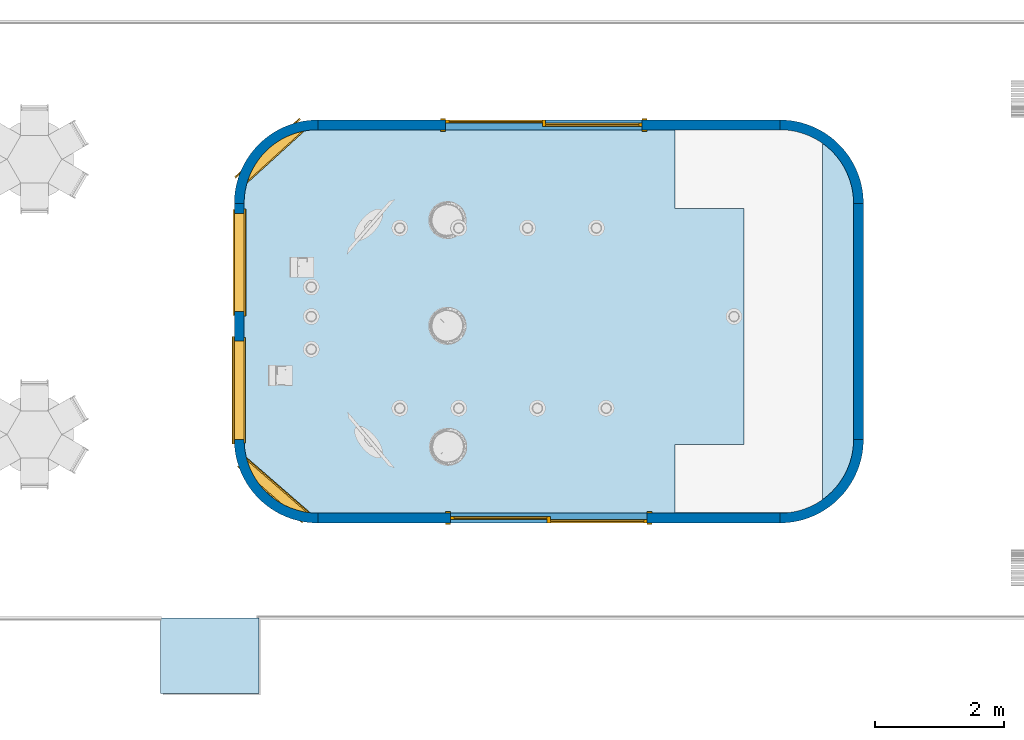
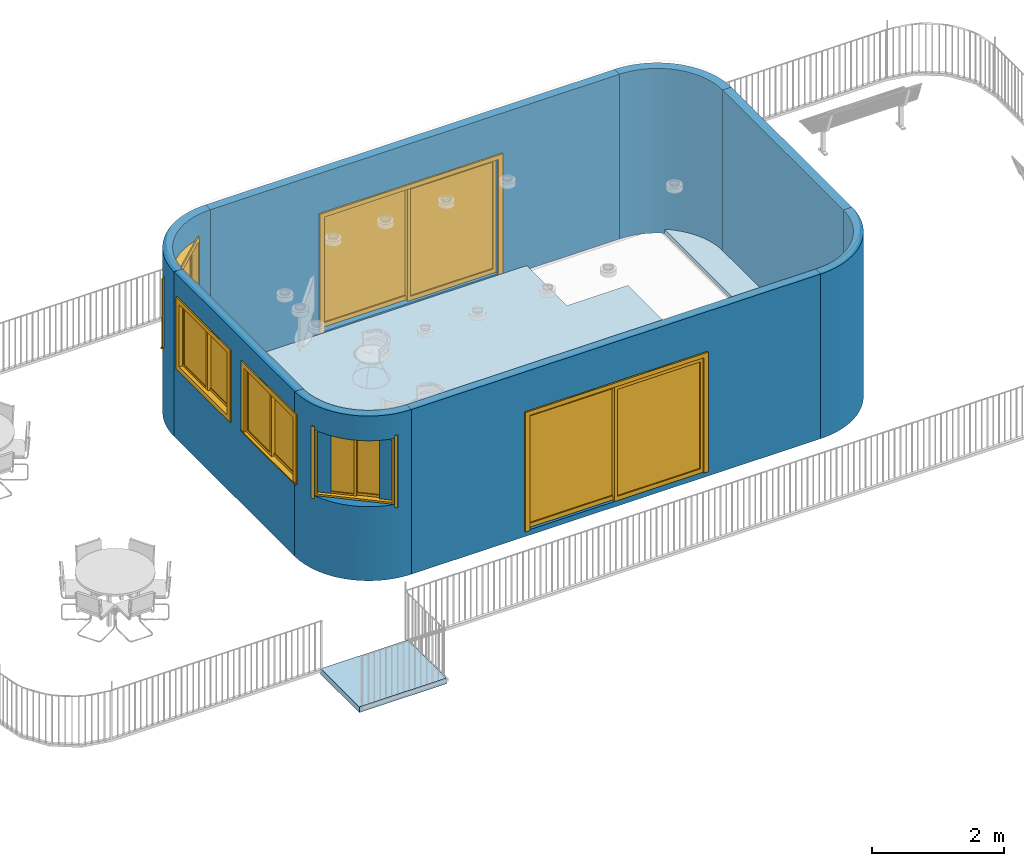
# One storey, part 1 of 8: 8 walls, 4 windows, 2 doors, 2 slabs, 7 openings.
"""IFC2X3 building model written with IfcOpenShell, lengths in feet."""

from ifc_helpers import new_model, entity, si_unit, converted_unit, derived_unit, direction, frame, frame_2d, origin, origin_2d_with_axis, place, context, subcontext, project, spatial, polyline, circle_curve, parameter, trimmed, segment, composite_curve, rectangle, outline, extrude, source, transform, mapped, material, material_list, layer, layer_set, layer_usage, type_object, type_shapes, element, fill, save


model = new_model("IFC2X3")

# Units and contexts
model_context = context("Model", 3, precision=0.0001, world=origin(), true_north=direction((6.12303176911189e-17, 1.0)))
body_context = subcontext(model_context, "Body", "Model", "MODEL_VIEW")
ifc_project = project(units=[converted_unit("LENGTHUNIT", "FOOT", entity("IfcRatioMeasure", 0.3048), si_unit("LENGTHUNIT", "METRE"), dimensions=[1, 0, 0, 0, 0, 0, 0]), converted_unit("AREAUNIT", "SQUARE FOOT", entity("IfcRatioMeasure", 0.09290304), si_unit("AREAUNIT", "SQUARE_METRE"), dimensions=[2, 0, 0, 0, 0, 0, 0]), converted_unit("VOLUMEUNIT", "CUBIC FOOT", entity("IfcRatioMeasure", 0.028316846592), si_unit("VOLUMEUNIT", "CUBIC_METRE"), dimensions=[3, 0, 0, 0, 0, 0, 0]), converted_unit("PLANEANGLEUNIT", "DEGREE", entity("IfcRatioMeasure", 0.0174532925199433), si_unit("PLANEANGLEUNIT", "RADIAN"), dimensions=[0, 0, 0, 0, 0, 0, 0]), si_unit("MASSUNIT", "GRAM", prefix="KILO"), derived_unit("MASSDENSITYUNIT", [(si_unit("MASSUNIT", "GRAM", prefix="KILO"), 1), (si_unit("LENGTHUNIT", "METRE"), -3)]), si_unit("TIMEUNIT", "SECOND"), si_unit("FREQUENCYUNIT", "HERTZ"), si_unit("THERMODYNAMICTEMPERATUREUNIT", "DEGREE_CELSIUS"), derived_unit("THERMALTRANSMITTANCEUNIT", [(si_unit("MASSUNIT", "GRAM", prefix="KILO"), 1), (si_unit("THERMODYNAMICTEMPERATUREUNIT", "KELVIN"), -1), (si_unit("TIMEUNIT", "SECOND"), -3)]), derived_unit("VOLUMETRICFLOWRATEUNIT", [(si_unit("LENGTHUNIT", "METRE"), 3), (si_unit("TIMEUNIT", "SECOND"), -1)]), si_unit("ELECTRICCURRENTUNIT", "AMPERE"), si_unit("ELECTRICVOLTAGEUNIT", "VOLT"), si_unit("POWERUNIT", "WATT"), si_unit("FORCEUNIT", "NEWTON"), si_unit("ILLUMINANCEUNIT", "LUX"), si_unit("LUMINOUSFLUXUNIT", "LUMEN"), si_unit("LUMINOUSINTENSITYUNIT", "CANDELA"), derived_unit("USERDEFINED", [(si_unit("MASSUNIT", "GRAM", prefix="KILO"), -1), (si_unit("LENGTHUNIT", "METRE"), -2), (si_unit("TIMEUNIT", "SECOND"), 3), (si_unit("LUMINOUSFLUXUNIT", "LUMEN"), 1)]), derived_unit("LINEARVELOCITYUNIT", [(si_unit("LENGTHUNIT", "METRE"), 1), (si_unit("TIMEUNIT", "SECOND"), -1)]), si_unit("PRESSUREUNIT", "PASCAL"), derived_unit("USERDEFINED", [(si_unit("LENGTHUNIT", "METRE"), -2), (si_unit("MASSUNIT", "GRAM", prefix="KILO"), 1), (si_unit("TIMEUNIT", "SECOND"), -2)])], contexts=[model_context])

# Site, building, storey
site_placement = place(None, origin())
site = spatial("IfcSite", under=ifc_project, at=site_placement, Name="表面", CompositionType="ELEMENT")
building_placement = place(site_placement, origin())
building = spatial("IfcBuilding", under=site, at=building_placement, CompositionType="ELEMENT")
storey_placement = place(building_placement, frame((0.0, 0.0, 20.0)))
storey = spatial("IfcBuildingStorey", under=building, at=storey_placement, Name="Sun Deck", CompositionType="ELEMENT", Elevation=19.9999999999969)

# Slab
ifc_material_1 = material(Name="Metal - Deck")
ifc_layer_1 = layer(ifc_material_1, 0.333333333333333)
ifc_material_2 = material(Name="Carpet (2)")
ifc_layer_2 = layer(ifc_material_2, 0.0104166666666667)
ifc_layer_set_1 = layer_set([ifc_layer_1, ifc_layer_2], Name="楼板:LW Concrete on Metal Deck")
ifc_layer_usage_1 = layer_usage(ifc_layer_set_1, "AXIS3", "POSITIVE", 0.0)
slab_1_placement = place(storey_placement, origin())
element("IfcSlab", 1, at=slab_1_placement, inside=storey, material=ifc_layer_usage_1, Name="楼板:LW Concrete on Metal Deck", ObjectType="楼板:LW Concrete on Metal Deck", PredefinedType="FLOOR", context=body_context, shape_type="SweptSolid", body=[
    extrude(rectangle(XDim=3.83333333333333, YDim=5.0, at=frame_2d((-1.77635683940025e-15, -8.88178419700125e-16), x_axis=(1.0, 0.0))), frame((-15.4515797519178, -15.3176063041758, 0.0), z_axis=(0.0, 0.0, -1.0), x_axis=(0.0, 1.0, 0.0)), (0.0, 0.0, 1.0), 0.34375),
])

# Slab, opening
ifc_layer_3 = layer(ifc_material_2, 0.25)
ifc_layer_set_2 = layer_set([ifc_layer_3], Name="楼板:3\" LW Concrete on 2\" Metal Deck")
ifc_layer_usage_2 = layer_usage(ifc_layer_set_2, "AXIS3", "POSITIVE", 0.0)
slab_2_placement = place(storey_placement, frame((-13.7015797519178, -8.06760630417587, 0.0)))
slab_2 = element("IfcSlab", 2, at=slab_2_placement, inside=storey, material=ifc_layer_usage_2, Name="楼板:3\" LW Concrete on 2\" Metal Deck", ObjectType="楼板:3\" LW Concrete on 2\" Metal Deck", PredefinedType="FLOOR", context=body_context, shape_type="SweptSolid", body=[
    extrude(outline(composite_curve([segment(trimmed(circle_curve(frame_2d((-11.75, 6.0), x_axis=(-1.0, 0.0)), 3.75), [parameter(270.0)], [parameter(1.01777749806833e-13)], True, "PARAMETER"), True, "CONTINUOUS"), segment(polyline([(-15.5, 6.0), (-15.5, -6.0)]), True, "CONTINUOUS"), segment(trimmed(circle_curve(frame_2d((-11.75, -6.0), x_axis=(-1.0, 0.0)), 3.75), [parameter(5.08888749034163e-14)], [parameter(90.0000000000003)], True, "PARAMETER"), True, "CONTINUOUS"), segment(polyline([(-11.75, -9.75000000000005), (11.75, -9.74999999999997)]), True, "CONTINUOUS"), segment(trimmed(circle_curve(frame_2d((11.75, -6.0), x_axis=(-1.0, 0.0)), 3.75), [parameter(90.0000000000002)], [parameter(180.0)], True, "PARAMETER"), True, "CONTINUOUS"), segment(polyline([(15.5, -6.0), (15.5, 6.0)]), True, "CONTINUOUS"), segment(trimmed(circle_curve(frame_2d((11.75, 6.0), x_axis=(-1.0, 0.0)), 3.75), [parameter(180.0)], [parameter(270.0)], True, "PARAMETER"), True, "CONTINUOUS"), segment(polyline([(11.75, 9.75000000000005), (-11.75, 9.75000000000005)]), True, "CONTINUOUS")], self_intersect=False)), frame((15.5, 9.75000000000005, 0.25), z_axis=(0.0, 0.0, -1.0), x_axis=(-1.0, 0.0, 0.0)), (0.0, 0.0, 1.0), 0.25),
])
opening_1_placement = place(storey_placement, frame((-13.7015797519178, -8.06760630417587, 0.0)))
element("IfcOpeningElement", 3, at=opening_1_placement, cuts=slab_2, ObjectType="Opening", context=body_context, shape_type="SweptSolid", body=[
    extrude(outline(polyline([(-13.9166666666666, 9.74999999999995), (-13.9166666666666, -9.72760980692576), (-6.41666666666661, -9.72760980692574), (-6.41666666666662, -6.25000000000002), (-9.91666666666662, -6.25000000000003), (-9.91666666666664, 5.74999999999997), (-6.41666666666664, 5.74999999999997), (-6.41666666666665, 9.74999999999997), (-13.9166666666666, 9.74999999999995)])), frame((15.5, 9.75000000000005, 0.25), z_axis=(0.0, 0.0, -1.0), x_axis=(-1.0, 0.0, 0.0)), (0.0, 0.0, 1.0), 0.25),
])

# Wall, openings, windows
ifc_material_3 = material(Name="Paint")
ifc_layer_4 = layer(ifc_material_3, 0.333333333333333)
ifc_material_4 = material(Name="Paints and Coatings")
ifc_layer_5 = layer(ifc_material_4, 0.166666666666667)
ifc_layer_set_3 = layer_set([ifc_layer_4, ifc_layer_5], Name="基本墙:Generic - 4\" Brick")
ifc_layer_usage_3 = layer_usage(ifc_layer_set_3, "AXIS2", "NEGATIVE", 0.25)
wall_type = type_object("IfcWallType", Name="基本墙:Generic - 4\" Brick", PredefinedType="STANDARD", material=ifc_layer_set_3)
wall_1_placement = place(storey_placement, frame((-13.9515797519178, -4.31760630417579, 0.0), z_axis=(0.0, 0.0, 1.0), x_axis=(0.0, 1.0, 0.0)))
wall_1 = element("IfcWallStandardCase", 4, at=wall_1_placement, inside=storey, type_object=wall_type, material=ifc_layer_usage_3, Name="基本墙:Generic - 4\" Brick", ObjectType="基本墙:Generic - 4\" Brick:257", context=body_context, shape_type="SweptSolid", body=[
    extrude(rectangle(XDim=12.0, YDim=0.5, at=frame_2d((6.00000000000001, 0.0), x_axis=(-1.0, 0.0))), origin(), (0.0, 0.0, 1.0), 9.99999999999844),
])
opening_2_placement = place(wall_1_placement, frame((0.0, -0.25, 4.49999999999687)))
opening_2 = element("IfcOpeningElement", 5, at=opening_2_placement, cuts=wall_1, Name="Slider with Trim:60\" x 48\":1", ObjectType="Opening", context=body_context, shape_type="SweptSolid", body=[
    extrude(rectangle(XDim=3.99999999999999, YDim=5.0, at=frame_2d((2.0, 2.5), x_axis=(-1.0, 0.0))), frame((0.0, 0.0, 0.0), z_axis=(0.0, 1.0, 0.0), x_axis=(0.0, 0.0, 1.0)), (0.0, 0.0, 1.0), 0.5),
])
opening_3_placement = place(wall_1_placement, frame((11.5, 0.249999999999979, 4.49999999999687)))
opening_3 = element("IfcOpeningElement", 6, at=opening_3_placement, cuts=wall_1, Name="Slider with Trim:60\" x 48\":1", ObjectType="Opening", context=body_context, shape_type="SweptSolid", body=[
    extrude(rectangle(XDim=3.99999999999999, YDim=5.0, at=frame_2d((2.0, 2.5), x_axis=(-1.0, 0.0))), frame((0.0, 0.0, 0.0), z_axis=(0.0, -1.0, 0.0), x_axis=(0.0, 0.0, 1.0)), (0.0, 0.0, 1.0), 0.5),
])
ifc_material_5 = material(Name="Glass")
ifc_material_6 = material(Name="Sash")
ifc_material_7 = material(Name="Trim")
ifc_material_list_1 = material_list([ifc_material_5, ifc_material_6, ifc_material_7])
ifc_material_list_2 = material_list([ifc_material_5, ifc_material_6, ifc_material_7])
window_style_1 = type_object("IfcWindowStyle", Name="60\" x 48\"", ConstructionType="NOTDEFINED", OperationType="NOTDEFINED", ParameterTakesPrecedence=False, Sizeable=False, material=ifc_material_list_2)
shared_shape_1 = source(origin(), body_context, "Body", "SweptSolid", [
    extrude(rectangle(XDim=0.0416666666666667, YDim=2.21875000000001, at=frame_2d((0.0, -2.22044604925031e-16), x_axis=(1.0, 0.0))), frame((1.31770833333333, 0.21875, 0.208333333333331), z_axis=(0.0, 0.0, 1.0), x_axis=(0.0, -1.0, 0.0)), (0.0, 0.0, 1.0), 3.58333333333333),
    extrude(outline(polyline([(-1.25520833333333, -1.9375), (1.25520833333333, -1.9375), (1.25520833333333, 1.9375), (-1.25520833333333, 1.9375), (-1.25520833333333, -1.9375)]), holes=[polyline([(-1.109375, -1.79166666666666), (-1.109375, 1.79166666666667), (1.109375, 1.79166666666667), (1.109375, -1.79166666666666), (-1.109375, -1.79166666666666)])]), frame((1.31770833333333, 0.145833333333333, 2.0), z_axis=(0.0, 1.0, 0.0), x_axis=(1.0, 0.0, 0.0)), (0.0, 0.0, 1.0), 0.145833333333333),
    extrude(rectangle(XDim=0.104166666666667, YDim=5.45833333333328, at=frame_2d((-2.77555756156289e-17, 0.0), x_axis=(1.0, 0.0))), frame((2.50000000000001, 0.552083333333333, 0.0), z_axis=(0.0, 0.0, 1.0), x_axis=(0.0, -1.0, 0.0)), (0.0, 0.0, 1.0), 0.0624999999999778),
    extrude(outline(polyline([(-1.86458333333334, 2.4375), (2.01041666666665, 2.4375), (2.01041666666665, 2.72916666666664), (-2.15624999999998, 2.72916666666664), (-2.15624999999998, -2.72916666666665), (2.01041666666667, -2.72916666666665), (2.01041666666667, -2.43749999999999), (-1.86458333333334, -2.43749999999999), (-1.86458333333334, 2.4375)])), frame((2.5, 0.5, 2.07291666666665), z_axis=(0.0, 1.0, 0.0), x_axis=(0.0, 0.0, -1.0)), (0.0, 0.0, 1.0), 0.0625),
    extrude(outline(polyline([(-2.18749999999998, -2.68749999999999), (2.18749999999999, -2.68749999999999), (2.18749999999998, 2.68749999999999), (-2.18749999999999, 2.68749999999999), (-2.18749999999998, -2.68749999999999)]), holes=[polyline([(-1.89583333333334, -2.39583333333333), (-1.89583333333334, 2.39583333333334), (1.89583333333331, 2.39583333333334), (1.89583333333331, -2.39583333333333), (-1.89583333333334, -2.39583333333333)])]), frame((2.5, -0.0625, 2.0), z_axis=(0.0, 1.0, 0.0), x_axis=(0.0, 0.0, -1.0)), (0.0, 0.0, 1.0), 0.0625),
    extrude(rectangle(XDim=0.0416666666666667, YDim=2.21874999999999, at=frame_2d((1.38777878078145e-17, 0.0), x_axis=(1.0, 0.0))), frame((3.68229166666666, 0.364583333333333, 0.208333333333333), z_axis=(0.0, 0.0, 1.0), x_axis=(0.0, 1.0, 0.0)), (0.0, 0.0, 1.0), 3.58333333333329),
    extrude(outline(polyline([(-1.25520833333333, -1.93749999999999), (1.25520833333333, -1.93749999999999), (1.25520833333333, 1.93749999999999), (-1.25520833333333, 1.93749999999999), (-1.25520833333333, -1.93749999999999)]), holes=[polyline([(-1.10937499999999, -1.79166666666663), (-1.10937499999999, 1.79166666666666), (1.10937499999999, 1.79166666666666), (1.10937499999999, -1.79166666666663), (-1.10937499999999, -1.79166666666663)])]), frame((3.68229166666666, 0.291666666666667, 2.0), z_axis=(0.0, 1.0, 0.0), x_axis=(1.0, 0.0, 0.0)), (0.0, 0.0, 1.0), 0.145833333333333),
    extrude(outline(polyline([(-2.5, -2.0), (2.5, -2.0), (2.5, 2.0), (-2.5, 2.0), (-2.5, -2.0)]), holes=[polyline([(-2.39583333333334, -1.89583333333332), (-2.39583333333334, 1.89583333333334), (2.39583333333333, 1.89583333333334), (2.39583333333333, -1.89583333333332), (-2.39583333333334, -1.89583333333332)])]), frame((2.5, 0.0, 2.0), z_axis=(0.0, 1.0, 0.0), x_axis=(1.0, 0.0, 0.0)), (0.0, 0.0, 1.0), 0.145833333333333),
    extrude(outline(polyline([(-2.0, -2.5), (2.0, -2.5), (2.0, 2.5), (-2.0, 2.5), (-2.0, -2.5)]), holes=[polyline([(-1.9375, -2.43749999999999), (-1.9375, 2.4375), (1.9375, 2.4375), (1.9375, -2.43749999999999), (-1.9375, -2.43749999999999)])]), frame((2.5, 0.145833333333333, 2.0), z_axis=(0.0, 1.0, 0.0), x_axis=(0.0, 0.0, -1.0)), (0.0, 0.0, 1.0), 0.354166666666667),
])
type_shapes(window_style_1, [shared_shape_1])
window_1_placement = place(opening_2_placement, origin())
window_1 = element("IfcWindow", 7, at=window_1_placement, inside=storey, type_object=window_style_1, material=ifc_material_list_1, Name="Slider with Trim:60\" x 48\"", ObjectType="60\" x 48\"", OverallHeight=4.0, OverallWidth=5.0, context=body_context, shape_type="MappedRepresentation", body=[
    mapped(shared_shape_1, transform((0.0, 0.0, 0.0), scale=1.0)),
])
fill(opening_2, window_1)
ifc_material_list_3 = material_list([ifc_material_5, ifc_material_6, ifc_material_7])
window_2_placement = place(opening_3_placement, frame((0.0, 0.0, 0.0), z_axis=(0.0, 0.0, 1.0), x_axis=(-1.0, 0.0, 0.0)))
window_2 = element("IfcWindow", 8, at=window_2_placement, inside=storey, type_object=window_style_1, material=ifc_material_list_3, Name="Slider with Trim:60\" x 48\"", ObjectType="60\" x 48\"", OverallHeight=4.0, OverallWidth=5.0, context=body_context, shape_type="MappedRepresentation", body=[
    mapped(shared_shape_1, transform((0.0, 0.0, 0.0), scale=1.0)),
])
fill(opening_3, window_2)

# Wall, opening, door
ifc_layer_usage_4 = layer_usage(ifc_layer_set_3, "AXIS2", "NEGATIVE", 0.25)
wall_2_placement = place(storey_placement, frame((-9.95157975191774, 11.6823936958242, 0.0)))
wall_2 = element("IfcWallStandardCase", 9, at=wall_2_placement, inside=storey, type_object=wall_type, material=ifc_layer_usage_4, Name="基本墙:Generic - 4\" Brick", ObjectType="基本墙:Generic - 4\" Brick:257", context=body_context, shape_type="SweptSolid", body=[
    extrude(rectangle(XDim=23.5, YDim=0.5, at=frame_2d((11.75, 0.0), x_axis=(-1.0, 0.0))), origin(), (0.0, 0.0, 1.0), 9.99999999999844),
])
opening_4_placement = place(wall_2_placement, frame((6.5, -0.249999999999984, 0.333333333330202)))
opening_4 = element("IfcOpeningElement", 10, at=opening_4_placement, cuts=wall_2, Name="Sliding-2 panel:72\" x 84\":1", ObjectType="Opening", context=body_context, shape_type="SweptSolid", body=[
    extrude(rectangle(XDim=7.0, YDim=10.0, at=frame_2d((3.5, 5.0), x_axis=(-1.0, 0.0))), frame((0.0, 0.0, 0.0), z_axis=(0.0, 1.0, 0.0), x_axis=(0.0, 0.0, 1.0)), (0.0, 0.0, 1.0), 0.5),
])
ifc_material_8 = material(Name="Door - Panel")
ifc_material_9 = material(Name="Door - Frame")
ifc_material_list_4 = material_list([ifc_material_5, ifc_material_8, ifc_material_9])
ifc_material_list_5 = material_list([ifc_material_5, ifc_material_8, ifc_material_9])
door_style = type_object("IfcDoorStyle", Name="72\" x 84\"", ConstructionType="NOTDEFINED", OperationType="NOTDEFINED", ParameterTakesPrecedence=False, Sizeable=False, material=ifc_material_list_5)
shared_shape_2 = source(origin(), body_context, "Body", "SweptSolid", [
    extrude(rectangle(XDim=0.0208333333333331, YDim=4.74999999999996, at=frame_2d((5.55111512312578e-17, 0.0), x_axis=(1.0, 0.0))), frame((7.45833333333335, 0.250000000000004, 0.249999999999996), z_axis=(0.0, 0.0, 1.0), x_axis=(0.0, -1.0, 0.0)), (0.0, 0.0, 1.0), 6.5),
    extrude(outline(polyline([(-2.54166666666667, -3.5), (2.54166666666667, -3.5), (2.54166666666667, 3.5), (-2.54166666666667, 3.5), (-2.54166666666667, -3.5)]), holes=[polyline([(-2.375, -3.25), (-2.375, 3.25), (2.375, 3.25), (2.375, -3.25), (-2.375, -3.25)])]), frame((7.45833333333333, 0.166666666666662, 3.5), z_axis=(0.0, 1.0, 0.0), x_axis=(1.0, 0.0, 0.0)), (0.0, 0.0, 1.0), 0.166666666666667),
    extrude(rectangle(XDim=0.0208333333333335, YDim=4.75000000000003, at=frame_2d((0.0, -4.44089209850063e-16), x_axis=(1.0, 0.0))), frame((2.54166666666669, 0.416666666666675, 0.249999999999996), z_axis=(0.0, 0.0, 1.0), x_axis=(0.0, -1.0, 0.0)), (0.0, 0.0, 1.0), 6.5),
    extrude(outline(polyline([(-3.5, -2.54166666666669), (3.5, -2.54166666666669), (3.5, 2.54166666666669), (-3.5, 2.54166666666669), (-3.5, -2.54166666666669)]), holes=[polyline([(-3.25, -2.37500000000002), (-3.25, 2.37500000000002), (3.25, 2.37500000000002), (3.25, -2.37500000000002), (-3.25, -2.37500000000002)])]), frame((2.54166666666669, 0.333333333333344, 3.5), z_axis=(0.0, 1.0, 0.0), x_axis=(0.0, 0.0, -1.0)), (0.0, 0.0, 1.0), 0.166666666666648),
    extrude(outline(polyline([(-3.5625, -5.25), (3.6875, -5.25), (3.6875, 5.25), (-3.5625, 5.25), (-3.5625, 5.0), (3.4375, 5.0), (3.4375, -5.0), (-3.5625, -5.0), (-3.5625, -5.25)])), frame((5.0, -0.0833333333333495, 3.5625), z_axis=(0.0, 1.0, 0.0), x_axis=(0.0, 0.0, 1.0)), (0.0, 0.0, 1.0), 0.0833333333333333),
    extrude(outline(polyline([(-5.24999999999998, -3.56250000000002), (-5.0, -3.56250000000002), (-5.0, 3.43749999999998), (5.0, 3.43750000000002), (5.0, -3.56249999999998), (5.25000000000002, -3.56249999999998), (5.24999999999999, 3.68750000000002), (-5.25000000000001, 3.68749999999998), (-5.24999999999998, -3.56250000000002)])), frame((5.0, 0.499999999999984, 3.5625), z_axis=(0.0, 1.0, 0.0), x_axis=(-1.0, 0.0, 0.0)), (0.0, 0.0, 1.0), 0.0833333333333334),
])
type_shapes(door_style, [shared_shape_2])
door_1_placement = place(opening_4_placement, origin())
door_1 = element("IfcDoor", 11, at=door_1_placement, inside=storey, type_object=door_style, material=ifc_material_list_4, Name="Sliding-2 panel:72\" x 84\"", ObjectType="72\" x 84\"", OverallHeight=7.0, OverallWidth=10.0, context=body_context, shape_type="MappedRepresentation", body=[
    mapped(shared_shape_2, transform((0.0, 0.0, 0.0), scale=1.0)),
])
fill(opening_4, door_1)

# Wall
ifc_layer_usage_5 = layer_usage(ifc_layer_set_3, "AXIS2", "NEGATIVE", 0.25)
wall_3_placement = place(storey_placement, frame((17.5484202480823, 7.68239369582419, 0.0), z_axis=(0.0, 0.0, 1.0), x_axis=(0.0, -1.0, 0.0)))
element("IfcWallStandardCase", 12, at=wall_3_placement, inside=storey, type_object=wall_type, material=ifc_layer_usage_5, Name="基本墙:Generic - 4\" Brick", ObjectType="基本墙:Generic - 4\" Brick:257", context=body_context, shape_type="SweptSolid", body=[
    extrude(rectangle(XDim=12.0000000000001, YDim=0.5, at=frame_2d((6.00000000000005, 7.21644966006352e-16), x_axis=(-1.0, 0.0))), origin(), (0.0, 0.0, 1.0), 9.99999999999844),
])

# Wall, opening, door
ifc_layer_usage_6 = layer_usage(ifc_layer_set_3, "AXIS2", "NEGATIVE", 0.25)
wall_4_placement = place(storey_placement, frame((13.5484202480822, -8.31760630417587, 0.0), z_axis=(0.0, 0.0, 1.0), x_axis=(-1.0, 0.0, 0.0)))
wall_4 = element("IfcWallStandardCase", 13, at=wall_4_placement, inside=storey, type_object=wall_type, material=ifc_layer_usage_6, Name="基本墙:Generic - 4\" Brick", ObjectType="基本墙:Generic - 4\" Brick:257", context=body_context, shape_type="SweptSolid", body=[
    extrude(rectangle(XDim=23.5, YDim=0.5, at=frame_2d((11.75, -4.16333634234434e-16), x_axis=(-1.0, 0.0))), origin(), (0.0, 0.0, 1.0), 9.99999999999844),
])
opening_5_placement = place(wall_4_placement, frame((6.75, -0.250000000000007, 0.333333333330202)))
opening_5 = element("IfcOpeningElement", 14, at=opening_5_placement, cuts=wall_4, Name="Sliding-2 panel:72\" x 84\":1", ObjectType="Opening", context=body_context, shape_type="SweptSolid", body=[
    extrude(rectangle(XDim=7.0, YDim=10.0, at=frame_2d((3.5, 5.0), x_axis=(-1.0, 0.0))), frame((0.0, 0.0, 0.0), z_axis=(0.0, 1.0, 0.0), x_axis=(0.0, 0.0, 1.0)), (0.0, 0.0, 1.0), 0.5),
])
ifc_material_list_6 = material_list([ifc_material_5, ifc_material_8, ifc_material_9])
door_2_placement = place(opening_5_placement, origin())
door_2 = element("IfcDoor", 15, at=door_2_placement, inside=storey, type_object=door_style, material=ifc_material_list_6, Name="Sliding-2 panel:72\" x 84\"", ObjectType="72\" x 84\"", OverallHeight=7.0, OverallWidth=10.0, context=body_context, shape_type="MappedRepresentation", body=[
    mapped(shared_shape_2, transform((0.0, 0.0, 0.0), scale=1.0)),
])
fill(opening_5, door_2)

# Wall, opening, window
ifc_layer_usage_7 = layer_usage(ifc_layer_set_3, "AXIS2", "NEGATIVE", 0.25)
wall_5_placement = place(storey_placement, frame((-9.95157975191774, 11.6823936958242, 0.0)))
wall_5 = element("IfcWallStandardCase", 16, at=wall_5_placement, inside=storey, type_object=wall_type, material=ifc_layer_usage_7, Name="基本墙:Generic - 4\" Brick", ObjectType="基本墙:Generic - 4\" Brick:257", context=body_context, shape_type="SweptSolid", body=[
    extrude(outline(composite_curve([segment(trimmed(circle_curve(frame_2d((0.0, -4.0), x_axis=(1.0, 0.0)), 3.75), [parameter(90.0000000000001)], [parameter(180.0)], True, "PARAMETER"), False, "CONTINUOUS"), segment(polyline([(0.0, -0.25), (0.0, 0.25)]), True, "CONTINUOUS"), segment(trimmed(circle_curve(frame_2d((0.0, -4.0), x_axis=(1.0, 0.0)), 4.25), [parameter(90.0000000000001)], [parameter(180.0)], True, "PARAMETER"), True, "CONTINUOUS"), segment(polyline([(-4.25, -4.0), (-3.75, -4.0)]), True, "CONTINUOUS")], self_intersect=False)), origin(), (0.0, 0.0, 1.0), 9.99999999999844),
])
opening_6_placement = place(wall_5_placement, frame((-0.976389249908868, -5.89977990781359, 4.49999999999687)))
opening_6 = element("IfcOpeningElement", 17, at=opening_6_placement, cuts=wall_5, Name="Slider with Trim:48\" x 48\":1", ObjectType="Opening", context=body_context, shape_type="SweptSolid", body=[
    extrude(rectangle(XDim=3.99999999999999, YDim=3.99999999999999, at=frame_2d((2.0, 2.0), x_axis=(-1.0, 0.0))), frame((0.0, 0.0, 0.0), z_axis=(-0.672277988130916, 0.740298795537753, 0.0), x_axis=(0.0, 0.0, 1.0)), (0.0, 0.0, 1.0), 4.62701643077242),
])
ifc_material_list_7 = material_list([ifc_material_5, ifc_material_6, ifc_material_7])
ifc_material_list_8 = material_list([ifc_material_5, ifc_material_6, ifc_material_7])
window_style_2 = type_object("IfcWindowStyle", Name="48\" x 48\"", ConstructionType="NOTDEFINED", OperationType="NOTDEFINED", ParameterTakesPrecedence=False, Sizeable=False, material=ifc_material_list_8)
shared_shape_3 = source(origin(), body_context, "Body", "SweptSolid", [
    extrude(rectangle(XDim=0.0416666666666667, YDim=1.71875000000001, at=origin_2d_with_axis()), frame((1.06770833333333, 0.21875, 0.208333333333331), z_axis=(0.0, 0.0, 1.0), x_axis=(0.0, -1.0, 0.0)), (0.0, 0.0, 1.0), 3.58333333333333),
    extrude(outline(polyline([(-1.00520833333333, -1.9375), (1.00520833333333, -1.9375), (1.00520833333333, 1.9375), (-1.00520833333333, 1.9375), (-1.00520833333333, -1.9375)]), holes=[polyline([(-0.859374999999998, -1.79166666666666), (-0.859374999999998, 1.79166666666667), (0.859374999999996, 1.79166666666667), (0.859374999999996, -1.79166666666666), (-0.859374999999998, -1.79166666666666)])]), frame((1.06770833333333, 0.145833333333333, 2.0), z_axis=(0.0, 1.0, 0.0), x_axis=(1.0, 0.0, 0.0)), (0.0, 0.0, 1.0), 0.145833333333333),
    extrude(rectangle(XDim=0.104166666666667, YDim=4.45833333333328, at=frame_2d((-2.77555756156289e-17, 0.0), x_axis=(1.0, 0.0))), frame((2.0, 0.552083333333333, 0.0), z_axis=(0.0, 0.0, 1.0), x_axis=(0.0, -1.0, 0.0)), (0.0, 0.0, 1.0), 0.0624999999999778),
    extrude(outline(polyline([(-1.86458333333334, 1.9375), (2.01041666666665, 1.9375), (2.01041666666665, 2.22916666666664), (-2.15624999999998, 2.22916666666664), (-2.15624999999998, -2.22916666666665), (2.01041666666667, -2.22916666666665), (2.01041666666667, -1.93749999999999), (-1.86458333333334, -1.93749999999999), (-1.86458333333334, 1.9375)])), frame((2.0, 0.5, 2.07291666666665), z_axis=(0.0, 1.0, 0.0), x_axis=(0.0, 0.0, -1.0)), (0.0, 0.0, 1.0), 0.0625),
    extrude(outline(polyline([(-2.18749999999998, -2.18749999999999), (2.18749999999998, -2.18749999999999), (2.18749999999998, 2.18749999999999), (-2.18749999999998, 2.18749999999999), (-2.18749999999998, -2.18749999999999)]), holes=[polyline([(-1.89583333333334, -1.89583333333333), (-1.89583333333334, 1.89583333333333), (1.89583333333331, 1.89583333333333), (1.89583333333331, -1.89583333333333), (-1.89583333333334, -1.89583333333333)])]), frame((2.0, -0.0625, 2.0), z_axis=(0.0, 1.0, 0.0), x_axis=(0.0, 0.0, -1.0)), (0.0, 0.0, 1.0), 0.0625),
    extrude(rectangle(XDim=0.0416666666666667, YDim=1.71874999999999, at=frame_2d((1.38777878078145e-17, 0.0), x_axis=(1.0, 0.0))), frame((2.93229166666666, 0.364583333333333, 0.208333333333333), z_axis=(0.0, 0.0, 1.0), x_axis=(0.0, 1.0, 0.0)), (0.0, 0.0, 1.0), 3.58333333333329),
    extrude(outline(polyline([(-1.00520833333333, -1.93749999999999), (1.00520833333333, -1.93749999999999), (1.00520833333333, 1.93749999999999), (-1.00520833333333, 1.93749999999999), (-1.00520833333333, -1.93749999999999)]), holes=[polyline([(-0.859374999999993, -1.79166666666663), (-0.859374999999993, 1.79166666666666), (0.859374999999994, 1.79166666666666), (0.859374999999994, -1.79166666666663), (-0.859374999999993, -1.79166666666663)])]), frame((2.93229166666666, 0.291666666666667, 2.0), z_axis=(0.0, 1.0, 0.0), x_axis=(1.0, 0.0, 0.0)), (0.0, 0.0, 1.0), 0.145833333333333),
    extrude(outline(polyline([(-2.0, -2.0), (2.0, -2.0), (2.0, 2.0), (-2.0, 2.0), (-2.0, -2.0)]), holes=[polyline([(-1.89583333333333, -1.89583333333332), (-1.89583333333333, 1.89583333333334), (1.89583333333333, 1.89583333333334), (1.89583333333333, -1.89583333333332), (-1.89583333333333, -1.89583333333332)])]), frame((2.0, 0.0, 2.0), z_axis=(0.0, 1.0, 0.0), x_axis=(1.0, 0.0, 0.0)), (0.0, 0.0, 1.0), 0.145833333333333),
    extrude(outline(polyline([(-2.0, -2.0), (2.0, -2.0), (2.0, 2.0), (-2.0, 2.0), (-2.0, -2.0)]), holes=[polyline([(-1.9375, -1.93749999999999), (-1.9375, 1.9375), (1.9375, 1.9375), (1.9375, -1.93749999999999), (-1.9375, -1.93749999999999)])]), frame((2.0, 0.145833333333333, 2.0), z_axis=(0.0, 1.0, 0.0), x_axis=(0.0, 0.0, -1.0)), (0.0, 0.0, 1.0), 0.354166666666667),
])
type_shapes(window_style_2, [shared_shape_3])
window_3_placement = place(opening_6_placement, frame((-2.68911180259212, 2.96119501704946, 0.0), z_axis=(0.0, 0.0, 1.0), x_axis=(0.740298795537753, 0.672277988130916, 0.0)))
window_3 = element("IfcWindow", 18, at=window_3_placement, inside=storey, type_object=window_style_2, material=ifc_material_list_7, Name="Slider with Trim:48\" x 48\"", ObjectType="48\" x 48\"", OverallHeight=4.0, OverallWidth=3.99999999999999, context=body_context, shape_type="MappedRepresentation", body=[
    mapped(shared_shape_3, transform((0.0, 0.0, 0.0), scale=1.0)),
])
fill(opening_6, window_3)

ifc_layer_usage_8 = layer_usage(ifc_layer_set_3, "AXIS2", "NEGATIVE", 0.25)
wall_6_placement = place(storey_placement, frame((-13.9515797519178, -4.31760630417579, 0.0)))
wall_6 = element("IfcWallStandardCase", 19, at=wall_6_placement, inside=storey, type_object=wall_type, material=ifc_layer_usage_8, Name="基本墙:Generic - 4\" Brick", ObjectType="基本墙:Generic - 4\" Brick:257", context=body_context, shape_type="SweptSolid", body=[
    extrude(outline(composite_curve([segment(trimmed(circle_curve(frame_2d((4.0, 0.0), x_axis=(1.0, 0.0)), 3.75), [parameter(180.0)], [parameter(270.0)], True, "PARAMETER"), False, "CONTINUOUS"), segment(polyline([(0.25, 0.0), (-0.25, 0.0)]), True, "CONTINUOUS"), segment(trimmed(circle_curve(frame_2d((4.0, 0.0), x_axis=(1.0, 0.0)), 4.25), [parameter(180.0)], [parameter(270.0)], True, "PARAMETER"), True, "CONTINUOUS"), segment(polyline([(4.0, -4.25000000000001), (4.0, -3.75000000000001)]), True, "CONTINUOUS")], self_intersect=False)), origin(), (0.0, 0.0, 1.0), 9.99999999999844),
])
opening_7_placement = place(wall_6_placement, frame((-2.86982383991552, -4.85689827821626, 4.49999999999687)))
opening_7 = element("IfcOpeningElement", 20, at=opening_7_placement, cuts=wall_6, Name="Slider with Trim:48\" x 48\":1", ObjectType="Opening", context=body_context, shape_type="SweptSolid", body=[
    extrude(rectangle(XDim=3.99999999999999, YDim=3.99999999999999, at=frame_2d((2.0, 2.0), x_axis=(-1.0, 0.0))), frame((0.0, 0.0, 0.0), z_axis=(0.655902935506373, 0.754845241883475, 0.0), x_axis=(0.0, 0.0, 1.0)), (0.0, 0.0, 1.0), 4.62701644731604),
])
ifc_material_list_9 = material_list([ifc_material_5, ifc_material_6, ifc_material_7])
window_4_placement = place(opening_7_placement, frame((2.95156307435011, 3.3968034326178, 0.0), z_axis=(0.0, 0.0, 1.0), x_axis=(0.754845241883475, -0.655902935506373, 0.0)))
window_4 = element("IfcWindow", 21, at=window_4_placement, inside=storey, type_object=window_style_2, material=ifc_material_list_9, Name="Slider with Trim:48\" x 48\"", ObjectType="48\" x 48\"", OverallHeight=4.0, OverallWidth=3.99999999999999, context=body_context, shape_type="MappedRepresentation", body=[
    mapped(shared_shape_3, transform((0.0, 0.0, 0.0), scale=1.0)),
])
fill(opening_7, window_4)

# Walls
ifc_layer_usage_9 = layer_usage(ifc_layer_set_3, "AXIS2", "NEGATIVE", 0.25)
wall_7_placement = place(storey_placement, frame((13.5484202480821, -8.31760630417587, 0.0)))
element("IfcWallStandardCase", 22, at=wall_7_placement, inside=storey, type_object=wall_type, material=ifc_layer_usage_9, Name="基本墙:Generic - 4\" Brick", ObjectType="基本墙:Generic - 4\" Brick:257", context=body_context, shape_type="SweptSolid", body=[
    extrude(outline(composite_curve([segment(trimmed(circle_curve(frame_2d((0.0, 4.0), x_axis=(1.0, 0.0)), 3.75), [parameter(269.999999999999)], [parameter(360.0)], True, "PARAMETER"), False, "CONTINUOUS"), segment(polyline([(0.0, 0.25), (0.0, -0.25)]), True, "CONTINUOUS"), segment(trimmed(circle_curve(frame_2d((0.0, 4.0), x_axis=(1.0, 0.0)), 4.25), [parameter(269.999999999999)], [parameter(360.0)], True, "PARAMETER"), True, "CONTINUOUS"), segment(polyline([(4.25000000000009, 4.0), (3.75000000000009, 4.0)]), True, "CONTINUOUS")], self_intersect=False)), origin(), (0.0, 0.0, 1.0), 9.99999999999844),
])
ifc_layer_usage_10 = layer_usage(ifc_layer_set_3, "AXIS2", "NEGATIVE", 0.25)
wall_8_placement = place(storey_placement, frame((17.5484202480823, 7.68239369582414, 0.0)))
element("IfcWallStandardCase", 23, at=wall_8_placement, inside=storey, type_object=wall_type, material=ifc_layer_usage_10, Name="基本墙:Generic - 4\" Brick", ObjectType="基本墙:Generic - 4\" Brick:257", context=body_context, shape_type="SweptSolid", body=[
    extrude(outline(composite_curve([segment(trimmed(circle_curve(frame_2d((-4.0, 0.0), x_axis=(1.0, 0.0)), 3.75), [parameter(359.999999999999)], [parameter(90.0000000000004)], True, "PARAMETER"), False, "CONTINUOUS"), segment(polyline([(-0.25, 0.0), (0.25, 0.0)]), True, "CONTINUOUS"), segment(trimmed(circle_curve(frame_2d((-4.0, 0.0), x_axis=(1.0, 0.0)), 4.25), [parameter(359.999999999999)], [parameter(90.0000000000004)], True, "PARAMETER"), True, "CONTINUOUS"), segment(polyline([(-4.0, 4.25000000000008), (-4.0, 3.75000000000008)]), True, "CONTINUOUS")], self_intersect=False)), origin(), (0.0, 0.0, 1.0), 9.99999999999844),
])

save(model, "model.ifc")
